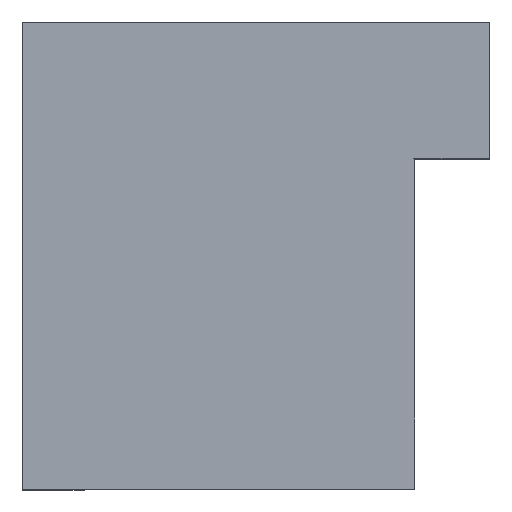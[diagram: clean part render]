
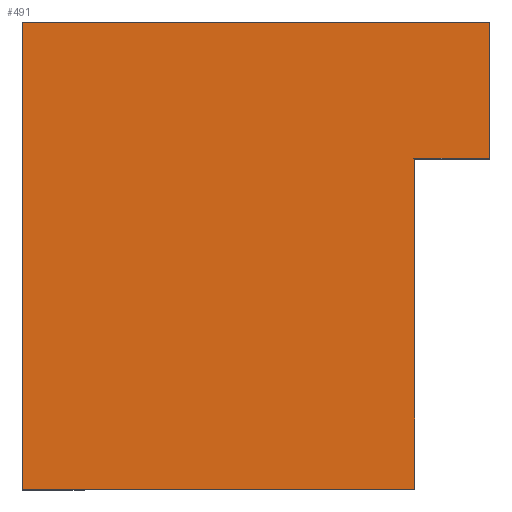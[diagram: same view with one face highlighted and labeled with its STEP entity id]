
A CAD part, top view. The second image highlights one B-rep face of the part: STEP entity #491.
In plain terms, the highlighted planar face has unit normal (0, 0, 1).
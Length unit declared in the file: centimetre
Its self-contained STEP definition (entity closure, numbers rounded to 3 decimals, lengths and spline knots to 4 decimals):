
#1 = ORIENTED_EDGE ( 'NONE', *, *, #75, .T. ) ;
#3 = EDGE_CURVE ( 'NONE', #117, #28, #119, .T. ) ;
#12 = VERTEX_POINT ( 'NONE', #283 ) ;
#16 = VECTOR ( 'NONE', #290, 100. ) ;
#23 = DIRECTION ( 'NONE',  ( 0., -1., 0. ) ) ;
#28 = VERTEX_POINT ( 'NONE', #469 ) ;
#45 = ORIENTED_EDGE ( 'NONE', *, *, #499, .T. ) ;
#48 = LINE ( 'NONE', #50, #485 ) ;
#50 = CARTESIAN_POINT ( 'NONE',  ( 0., 1000., 1000. ) ) ;
#54 = CARTESIAN_POINT ( 'NONE',  ( 1000., 708.2072, 1000. ) ) ;
#62 = LINE ( 'NONE', #217, #389 ) ;
#75 = EDGE_CURVE ( 'NONE', #302, #360, #48, .T. ) ;
#88 = LINE ( 'NONE', #443, #16 ) ;
#117 = VERTEX_POINT ( 'NONE', #249 ) ;
#119 = LINE ( 'NONE', #472, #233 ) ;
#132 = EDGE_CURVE ( 'NONE', #440, #302, #88, .T. ) ;
#142 = DIRECTION ( 'NONE',  ( 0., -1., 0. ) ) ;
#165 = EDGE_CURVE ( 'NONE', #440, #12, #436, .T. ) ;
#180 = AXIS2_PLACEMENT_3D ( 'NONE', #377, #309, #295 ) ;
#205 = DIRECTION ( 'NONE',  ( -1., 0., 0. ) ) ;
#217 = CARTESIAN_POINT ( 'NONE',  ( 0., 1000., 1000. ) ) ;
#233 = VECTOR ( 'NONE', #320, 100. ) ;
#234 = VECTOR ( 'NONE', #289, 100. ) ;
#237 = EDGE_LOOP ( 'NONE', ( #432, #461, #498, #1, #45, #348 ) ) ;
#249 = CARTESIAN_POINT ( 'NONE',  ( 0., 0., 1000. ) ) ;
#261 = FACE_OUTER_BOUND ( 'NONE', #237, .T. ) ;
#266 = LINE ( 'NONE', #415, #396 ) ;
#283 = CARTESIAN_POINT ( 'NONE',  ( 839.6269, 708.2072, 1000. ) ) ;
#289 = DIRECTION ( 'NONE',  ( -1., 0., 0. ) ) ;
#290 = DIRECTION ( 'NONE',  ( 0., 1., 0. ) ) ;
#295 = DIRECTION ( 'NONE',  ( 1., 0., 0. ) ) ;
#302 = VERTEX_POINT ( 'NONE', #328 ) ;
#309 = DIRECTION ( 'NONE',  ( 0., 0., 1. ) ) ;
#320 = DIRECTION ( 'NONE',  ( 1., 0., 0. ) ) ;
#328 = CARTESIAN_POINT ( 'NONE',  ( 1000., 1000., 1000. ) ) ;
#348 = ORIENTED_EDGE ( 'NONE', *, *, #3, .T. ) ;
#360 = VERTEX_POINT ( 'NONE', #381 ) ;
#377 = CARTESIAN_POINT ( 'NONE',  ( 0., 0., 1000. ) ) ;
#381 = CARTESIAN_POINT ( 'NONE',  ( 0., 1000., 1000. ) ) ;
#389 = VECTOR ( 'NONE', #23, 100. ) ;
#396 = VECTOR ( 'NONE', #142, 100. ) ;
#411 = CARTESIAN_POINT ( 'NONE',  ( 1000., 708.2072, 1000. ) ) ;
#415 = CARTESIAN_POINT ( 'NONE',  ( 839.6269, 708.2072, 1000. ) ) ;
#432 = ORIENTED_EDGE ( 'NONE', *, *, #460, .F. ) ;
#436 = LINE ( 'NONE', #54, #234 ) ;
#440 = VERTEX_POINT ( 'NONE', #411 ) ;
#443 = CARTESIAN_POINT ( 'NONE',  ( 1000., 1000., 1000. ) ) ;
#460 = EDGE_CURVE ( 'NONE', #12, #28, #266, .T. ) ;
#461 = ORIENTED_EDGE ( 'NONE', *, *, #165, .F. ) ;
#469 = CARTESIAN_POINT ( 'NONE',  ( 839.6269, 0., 1000. ) ) ;
#472 = CARTESIAN_POINT ( 'NONE',  ( 0., 0., 1000. ) ) ;
#485 = VECTOR ( 'NONE', #205, 100. ) ;
#491 = ADVANCED_FACE ( 'NONE', ( #261 ), #501, .T. ) ;
#498 = ORIENTED_EDGE ( 'NONE', *, *, #132, .T. ) ;
#499 = EDGE_CURVE ( 'NONE', #360, #117, #62, .T. ) ;
#501 = PLANE ( 'NONE',  #180 ) ;
